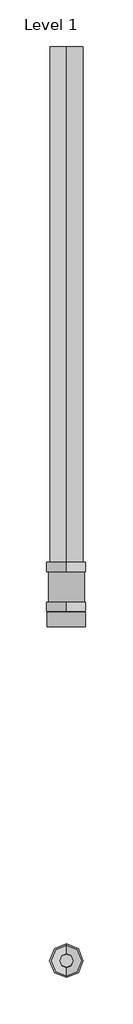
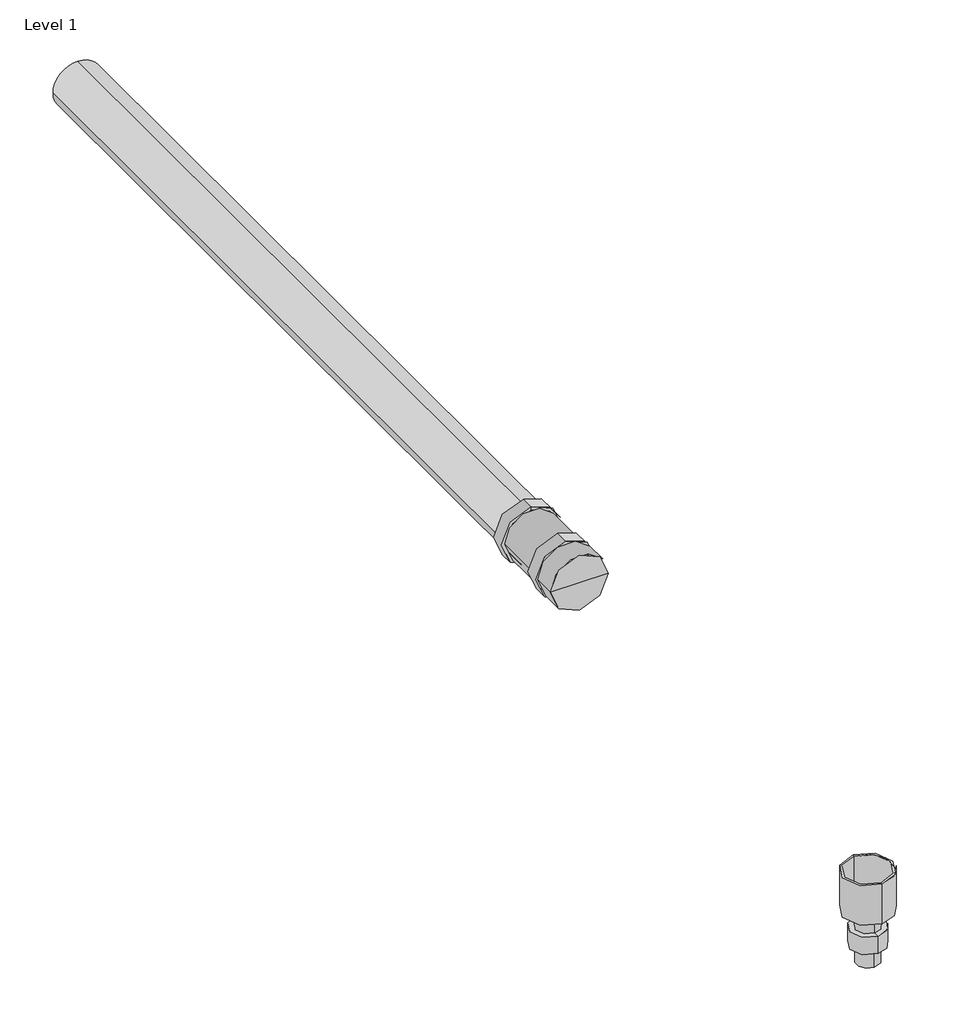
# One storey, incomplete: 4 pipe fittings, 1 pipe segment.
"""IFC4 building model written with IfcOpenShell, lengths in millimetres."""

from ifc_helpers import new_model, si_unit, point, frame, frame_2d, origin, place, context, project, spatial, circle_curve, trimmed, segment, composite_curve, outline, extrude, transform, mapped, element, save
from components import white_4b2a9edb, white_86f571b3, white_a47a9528, white_7a7d4569

model = new_model("IFC4")

# Units and contexts
model_context = context("Model", 3, world=origin())
ifc_project = project(units=[si_unit("LENGTHUNIT", "METRE", prefix="MILLI")], contexts=[model_context])

# Site, building, storey
site = spatial("IfcSite", under=ifc_project)
building = spatial("IfcBuilding", under=site)
storey = spatial("IfcBuildingStorey", under=building, Name="Level 1", Elevation=0.0)

# Pipe fittings
placement = place(None, origin())
white_shape = white_4b2a9edb(model_context)
element("IfcPipeFitting", 1, ObjectType="Wavin_PipeFitting_OsmaWasteZDoNotUsePpSSocketDouble : White", at=placement, inside=storey, context=model_context, shape_type="MappedRepresentation", body=[
    mapped(white_shape, transform((3228.1677771, 2433.2252198, 150.0), x_axis=(0.0, -1.0, 0.0), y_axis=(1.0, 0.0, 0.0), z_axis=(0.0, 0.0, 1.0))),
])
white_2_shape = white_86f571b3(model_context)
element("IfcPipeFitting", 2, ObjectType="Wavin_PipeFitting_OsmaOverflowZDoNotUseAbsAdaptorStraight : White", at=placement, inside=storey, context=model_context, shape_type="MappedRepresentation", body=[
    mapped(white_2_shape, transform((3228.1677771, 1822.9574411, 79.0), x_axis=(0.0, 0.0, 1.0), y_axis=(0.0, 1.0, 0.0), z_axis=(-1.0, 0.0, 0.0))),
])
white_3_shape = white_a47a9528(model_context)
element("IfcPipeFitting", 3, ObjectType="Wavin_PlumbingFixture_OsmaOverflowPpTundish : White", at=placement, inside=storey, context=model_context, shape_type="MappedRepresentation", body=[
    mapped(white_3_shape, transform((3228.1677771, 1822.9574411, 150.0), x_axis=(0.0, -1.0, 0.0), y_axis=(1.0, 0.0, 0.0), z_axis=(0.0, 0.0, 1.0))),
])
white_4_shape = white_7a7d4569(model_context)
element("IfcPipeFitting", 4, ObjectType="Wavin_PipeFitting_OsmaWastePpSAccessPlug : White", at=placement, inside=storey, context=model_context, shape_type="MappedRepresentation", body=[
    mapped(white_4_shape, transform((3228.1677771, 2367.2252198, 150.0), x_axis=(0.0, -1.0, 0.0), y_axis=(1.0, 0.0, 0.0), z_axis=(0.0, 0.0, 1.0))),
])

# Pipe segment
element("IfcPipeSegment", 5, ObjectType="Wavin_Pipe_OsmaWasteastePpPushFit", at=placement, inside=storey, context=model_context, shape_type="SweptSolid", body=[
    extrude(outline(composite_curve([segment(trimmed(circle_curve(frame_2d((150.0, 3228.1677771)), 26.95), [point((150.0, 3255.1177771))], [point((176.95, 3228.1677771))], False, "CARTESIAN"), True, "CONTINUOUS"), segment(trimmed(circle_curve(frame_2d((150.0, 3228.1677771)), 26.95), [point((176.95, 3228.1677771))], [point((150.0, 3201.2177771))], False, "CARTESIAN"), True, "CONTINUOUS"), segment(trimmed(circle_curve(frame_2d((150.0, 3228.1677771)), 26.95), [point((150.0, 3201.2177771))], [point((123.05, 3228.1677771))], False, "CARTESIAN"), True, "CONTINUOUS"), segment(trimmed(circle_curve(frame_2d((150.0, 3228.1677771)), 26.95), [point((123.05, 3228.1677771))], [point((150.0, 3255.1177771))], False, "CARTESIAN"), True, "CONTINUOUS")], self_intersect=False)), frame((0.0, 2433.2252198, 0.0), z_axis=(0.0, 1.0, 0.0), x_axis=(0.0, 0.0, 1.0)), (0.0, 0.0, 1.0), 880.0),
])

save(model, "model.ifc")
